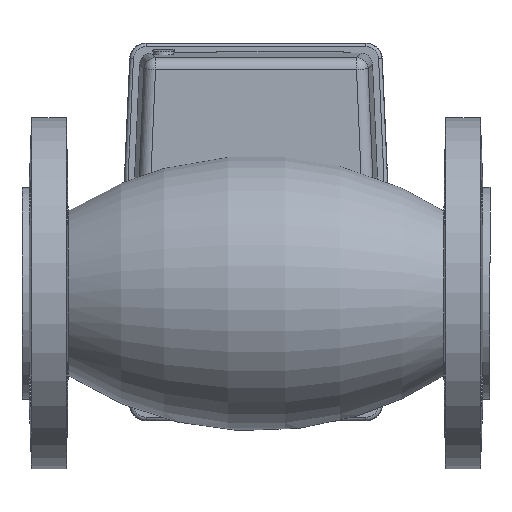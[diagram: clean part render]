
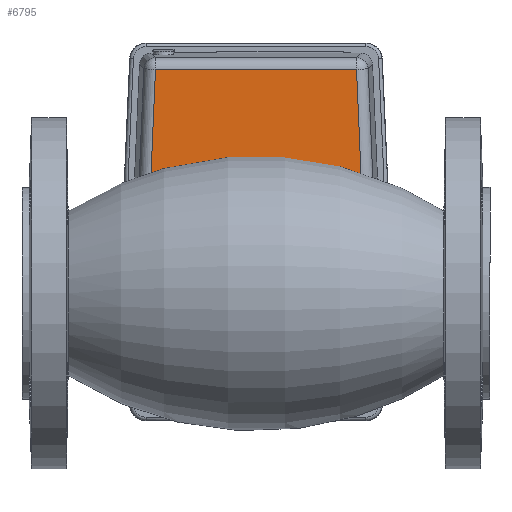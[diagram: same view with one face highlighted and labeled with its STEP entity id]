
A CAD part, front view. The second image highlights one B-rep face of the part: STEP entity #6795.
In plain terms, the highlighted planar face has unit normal (0, -1, 0).
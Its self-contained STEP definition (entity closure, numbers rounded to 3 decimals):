
#266=LINE('',#9661,#596);
#267=LINE('',#9665,#597);
#268=LINE('',#9669,#598);
#596=VECTOR('',#8163,1000.);
#597=VECTOR('',#8166,1000.);
#598=VECTOR('',#8169,1000.);
#922=CIRCLE('',#7152,25.358);
#954=CIRCLE('',#7218,1090.687);
#955=CIRCLE('',#7219,163.687);
#956=CIRCLE('',#7220,1090.687);
#1583=ORIENTED_EDGE('',*,*,#2637,.T.);
#1584=ORIENTED_EDGE('',*,*,#2743,.F.);
#1585=ORIENTED_EDGE('',*,*,#2744,.T.);
#1586=ORIENTED_EDGE('',*,*,#2745,.F.);
#1587=ORIENTED_EDGE('',*,*,#2746,.T.);
#1588=ORIENTED_EDGE('',*,*,#2747,.F.);
#1589=ORIENTED_EDGE('',*,*,#2748,.T.);
#2637=EDGE_CURVE('',#3272,#3272,#922,.T.);
#2743=EDGE_CURVE('',#3354,#3355,#954,.T.);
#2744=EDGE_CURVE('',#3354,#3356,#266,.T.);
#2745=EDGE_CURVE('',#3357,#3356,#955,.T.);
#2746=EDGE_CURVE('',#3357,#3358,#267,.T.);
#2747=EDGE_CURVE('',#3359,#3358,#956,.T.);
#2748=EDGE_CURVE('',#3359,#3355,#268,.T.);
#3272=VERTEX_POINT('',#9437);
#3354=VERTEX_POINT('',#9659);
#3355=VERTEX_POINT('',#9660);
#3356=VERTEX_POINT('',#9662);
#3357=VERTEX_POINT('',#9664);
#3358=VERTEX_POINT('',#9666);
#3359=VERTEX_POINT('',#9668);
#3781=EDGE_LOOP('',(#1583));
#3782=EDGE_LOOP('',(#1584,#1585,#1586,#1587,#1588,#1589));
#4178=FACE_BOUND('',#3781,.T.);
#4179=FACE_BOUND('',#3782,.T.);
#4510=PLANE('',#7217);
#6795=ADVANCED_FACE('',(#4178,#4179),#4510,.F.);
#7152=AXIS2_PLACEMENT_3D('',#9436,#7963,#7964);
#7217=AXIS2_PLACEMENT_3D('',#9657,#8159,#8160);
#7218=AXIS2_PLACEMENT_3D('',#9658,#8161,#8162);
#7219=AXIS2_PLACEMENT_3D('',#9663,#8164,#8165);
#7220=AXIS2_PLACEMENT_3D('',#9667,#8167,#8168);
#7963=DIRECTION('',(0.,1.,0.));
#7964=DIRECTION('',(0.,0.,1.));
#8159=DIRECTION('',(0.,1.,0.));
#8160=DIRECTION('',(0.,0.,1.));
#8161=DIRECTION('',(0.,1.,0.));
#8162=DIRECTION('',(0.,0.,1.));
#8163=DIRECTION('',(1.,0.,0.));
#8164=DIRECTION('',(0.,1.,0.));
#8165=DIRECTION('',(0.,0.,1.));
#8166=DIRECTION('',(1.,0.,0.));
#8167=DIRECTION('',(0.,1.,0.));
#8168=DIRECTION('',(0.,0.,1.));
#8169=DIRECTION('',(-1.,0.,0.));
#9436=CARTESIAN_POINT('',(0.,280.5,0.));
#9437=CARTESIAN_POINT('',(0.,280.5,25.358));
#9657=CARTESIAN_POINT('',(1045.513,280.5,26.246));
#9658=CARTESIAN_POINT('',(1045.513,280.5,26.246));
#9659=CARTESIAN_POINT('',(-42.961,280.5,-43.195));
#9660=CARTESIAN_POINT('',(-42.961,280.5,95.687));
#9661=CARTESIAN_POINT('',(1045.513,280.5,-43.195));
#9662=CARTESIAN_POINT('',(-33.454,280.5,-43.195));
#9663=CARTESIAN_POINT('',(0.,280.5,117.037));
#9664=CARTESIAN_POINT('',(33.454,280.5,-43.195));
#9665=CARTESIAN_POINT('',(1045.513,280.5,-43.195));
#9666=CARTESIAN_POINT('',(42.961,280.5,-43.195));
#9667=CARTESIAN_POINT('',(-1045.513,280.5,26.246));
#9668=CARTESIAN_POINT('',(42.961,280.5,95.687));
#9669=CARTESIAN_POINT('',(1045.513,280.5,95.687));
